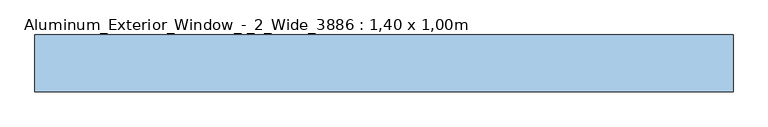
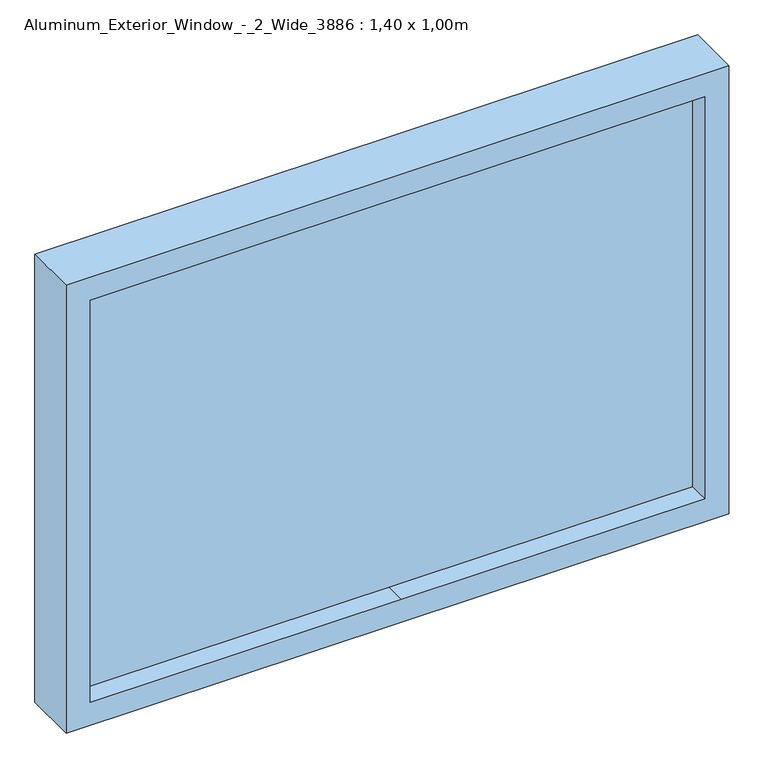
"""IFC4 building model written with IfcOpenShell, lengths in millimetres: window geometry, Aluminum_Exterior_Window_-_2_Wide_3886 : 1,40 x 1,00m."""

import ifcopenshell
import ifcopenshell.guid

model = None  # the IFC model being written
_history = None  # IfcOwnerHistory: only IFC2X3 demands one
_inside = {}  # id of a spatial element -> (the spatial element, [elements in it])
_under = {}  # id of a project, library or spatial element -> (it, [spatial elements below it])
_declared = {}  # id of a project -> (the project, [libraries it declares])
_typed = {}  # id of a type object -> (the type object, [elements of that type])
_made_of = {}  # id of a material, layer set ... -> (it, [elements and type objects made of it])


def new_model(schema):
    """Start an empty IFC model of exactly this schema.

    Asked for "IFC4X3", IfcOpenShell would pick the latest addendum, in which some entities
    have other attributes; the version numbers below select the first issue.
    IFC2X3 requires an IfcOwnerHistory on every rooted entity: one is made here for all.
    """
    global model, _history
    if schema == "IFC4X3":
        model = ifcopenshell.file(schema_version=(4, 3, 0, 0))
    else:
        model = ifcopenshell.file(schema=schema)
    _inside.clear()
    _under.clear()
    _declared.clear()
    _typed.clear()
    _made_of.clear()
    _history = None
    if model.schema == "IFC2X3":
        org = make("IfcOrganization", Name="unknown")
        user = make(
            "IfcPersonAndOrganization",
            ThePerson=make("IfcPerson", FamilyName="unknown"),
            TheOrganization=org,
        )
        app = make(
            "IfcApplication",
            ApplicationDeveloper=org,
            Version="unknown",
            ApplicationFullName="unknown",
            ApplicationIdentifier="unknown",
        )
        _history = make(
            "IfcOwnerHistory",
            OwningUser=user,
            OwningApplication=app,
            ChangeAction="ADDED",
            CreationDate=0,
        )
    return model


def make(cls, **values):
    """One entity of the class cls with the attributes given. An attribute that is None is left unset."""
    return model.create_entity(
        cls, **{name: value for name, value in values.items() if value is not None}
    )


def rooted(cls, **values):
    """An entity with a GlobalId (a new one), such as an element, a storey or a relation."""
    return make(cls, GlobalId=ifcopenshell.guid.new(), OwnerHistory=_history, **values)


def si_unit(unit_type, name, prefix=None):
    """IfcSIUnit, for example si_unit("LENGTHUNIT", "METRE", prefix="MILLI")."""
    return make("IfcSIUnit", UnitType=unit_type, Prefix=prefix, Name=name)


def assignment(units):
    """IfcUnitAssignment: the units of a project."""
    return None if units is None else make("IfcUnitAssignment", Units=units)


def point(xyz):
    """IfcCartesianPoint."""
    return None if xyz is None else make("IfcCartesianPoint", Coordinates=xyz)


def direction(xyz):
    """IfcDirection."""
    return None if xyz is None else make("IfcDirection", DirectionRatios=xyz)


def frame(location, z_axis=None, x_axis=None):
    """IfcAxis2Placement3D, a coordinate frame: its origin and axes. An axis left out is left unset."""
    return make(
        "IfcAxis2Placement3D",
        Location=point(location),
        Axis=direction(z_axis),
        RefDirection=direction(x_axis),
    )


def origin():
    """The frame at (0, 0, 0) with its axes left unset."""
    return frame((0.0, 0.0, 0.0))


def place(relative_to, where):
    """IfcLocalPlacement: puts the frame where relative to a parent placement (None: the world)."""
    return make(
        "IfcLocalPlacement", PlacementRelTo=relative_to, RelativePlacement=where
    )


def context(
    kind, dimensions, precision=None, world=None, true_north=None, identifier=None
):
    """IfcGeometricRepresentationContext, for example the 3D "Model" context."""
    return make(
        "IfcGeometricRepresentationContext",
        ContextIdentifier=identifier,
        ContextType=kind,
        CoordinateSpaceDimension=dimensions,
        Precision=precision,
        WorldCoordinateSystem=world,
        TrueNorth=true_north,
    )


def project(units=None, contexts=None):
    """IfcProject with its units and contexts."""
    return rooted(
        "IfcProject",
        Name="project",
        RepresentationContexts=contexts,
        UnitsInContext=assignment(units),
    )


def spatial(cls, under=None, at=None, **own):
    """A site, building, storey or space (cls), placed at a placement, below another one or the project."""
    s = rooted(cls, ObjectPlacement=at, **own)
    if under is not None:
        _under.setdefault(under.id(), (under, []))[1].append(s)
    return s


def polyline(points):
    """IfcPolyline through the points."""
    return make("IfcPolyline", Points=[point(p) for p in points])


def outline(outer, holes=None, kind="AREA"):
    """IfcArbitraryClosedProfileDef: a profile drawn as a closed curve; with holes, ...WithVoids."""
    if holes is None:
        return make("IfcArbitraryClosedProfileDef", ProfileType=kind, OuterCurve=outer)
    return make(
        "IfcArbitraryProfileDefWithVoids",
        ProfileType=kind,
        OuterCurve=outer,
        InnerCurves=holes,
    )


def extrude(swept, where, along, depth):
    """IfcExtrudedAreaSolid: the profile swept, set in the frame where, extruded along a direction by depth."""
    return make(
        "IfcExtrudedAreaSolid",
        SweptArea=swept,
        Position=where,
        ExtrudedDirection=direction(along),
        Depth=depth,
    )


def shape(context_of_items, identifier, shape_type, items):
    """IfcShapeRepresentation: the items that make up one representation, for example the "Body"."""
    return make(
        "IfcShapeRepresentation",
        ContextOfItems=context_of_items,
        RepresentationIdentifier=identifier,
        RepresentationType=shape_type,
        Items=items,
    )


def source(mapping_origin, context_of_items, identifier, shape_type, items):
    """IfcRepresentationMap: a shape defined once, which mapped items show again and again."""
    return make(
        "IfcRepresentationMap",
        MappingOrigin=mapping_origin,
        MappedRepresentation=shape(context_of_items, identifier, shape_type, items),
    )


def transform(
    local_origin,
    x_axis=None,
    y_axis=None,
    z_axis=None,
    scale=None,
    scale2=None,
    scale3=None,
    uniform=True,
):
    """IfcCartesianTransformationOperator3D, or its non-uniform kind. x_axis, y_axis, z_axis: its Axis1, 2, 3."""
    if uniform:
        return make(
            "IfcCartesianTransformationOperator3D",
            Axis1=direction(x_axis),
            Axis2=direction(y_axis),
            LocalOrigin=point(local_origin),
            Scale=scale,
            Axis3=direction(z_axis),
        )
    return make(
        "IfcCartesianTransformationOperator3DnonUniform",
        Axis1=direction(x_axis),
        Axis2=direction(y_axis),
        LocalOrigin=point(local_origin),
        Scale=scale,
        Axis3=direction(z_axis),
        Scale2=scale2,
        Scale3=scale3,
    )


def mapped(mapping_source, mapping_target):
    """IfcMappedItem: shows the shape of a source again, moved by a transform."""
    return make(
        "IfcMappedItem", MappingSource=mapping_source, MappingTarget=mapping_target
    )


def made_of(thing, what):
    """Note that an element or type object is made of a material, layer set ...; save() writes the relation."""
    if what is not None:
        _made_of.setdefault(what.id(), (what, []))[1].append(thing)
    return thing


def element(
    cls,
    number,
    at=None,
    inside=None,
    cuts=None,
    type_object=None,
    material=None,
    context=None,
    identifier="Body",
    shape_type=None,
    held_by="IfcProductDefinitionShape",
    body=None,
    shapes=None,
    **own,
):
    """One element of the class cls, such as IfcWall. Its Tag is "e" and its number.

    at: its placement. inside: the storey or other place that contains it. cuts: it is an
    opening in that element (IfcRelVoidsElement). A single representation is given by context,
    identifier, shape_type and body (its items); several are given by shapes. held_by: the class
    of the entity that holds the representations. save() writes the other relations.
    """
    e = rooted(cls, Tag="e%d" % number, ObjectPlacement=at, **own)
    if body is not None:
        shapes = [shape(context, identifier, shape_type, body)]
    if shapes is not None:
        e.Representation = make(held_by, Representations=shapes)
    if inside is not None:
        _inside.setdefault(inside.id(), (inside, []))[1].append(e)
    if cuts is not None:
        rooted(
            "IfcRelVoidsElement", RelatingBuildingElement=cuts, RelatedOpeningElement=e
        )
    if type_object is not None:
        _typed.setdefault(type_object.id(), (type_object, []))[1].append(e)
    return made_of(e, material)


def aggregate(whole, parts):
    """IfcRelAggregates: a whole, such as a stair, and the parts it consists of."""
    return rooted("IfcRelAggregates", RelatingObject=whole, RelatedObjects=parts)


def save(model, path):
    """Write the relations noted so far, then the file.

    IfcRelAggregates (storeys below a building ...), IfcRelContainedInSpatialStructure (elements
    in a storey), IfcRelDefinesByType, IfcRelAssociatesMaterial and IfcRelDeclares: one each for
    every whole, place, type object, material and project.
    """
    for whole, parts in _under.values():
        aggregate(whole, parts)
    for where, things in _inside.values():
        rooted(
            "IfcRelContainedInSpatialStructure",
            RelatedElements=things,
            RelatingStructure=where,
        )
    for kind, things in _typed.values():
        rooted("IfcRelDefinesByType", RelatedObjects=things, RelatingType=kind)
    for what, things in _made_of.values():
        rooted("IfcRelAssociatesMaterial", RelatedObjects=things, RelatingMaterial=what)
    for by, libraries in _declared.values():
        rooted("IfcRelDeclares", RelatingContext=by, RelatedDefinitions=libraries)
    model.write(path)


def aluminum_exterior_window_2_wide_3886_1_40_x_1_00m_dec34682(model_context):
    return source(origin(), model_context, "Body", "SweptSolid", [
        extrude(outline(polyline([(2060.0, -1371.6), (1060.0, -1371.6), (1060.0, 28.4), (2060.0, 28.4), (2060.0, -1371.6)]), holes=[polyline([(2009.2, -697.0), (2009.2, -22.4), (1110.8, -22.4), (1110.8, -663.8808837), (1110.8, -1320.8), (2009.2, -1320.8), (2009.2, -697.0)])]), frame((0.0, -38.1424754, 0.0), z_axis=(0.0, 1.0, 0.0), x_axis=(0.0, 0.0, 1.0)), (0.0, 0.0, 1.0), 114.3),
        extrude(outline(polyline([(2009.2, -697.0), (2009.2, -1320.8), (1110.8, -1320.8), (1110.8, -670.891469), (1110.8, -22.4), (2009.2, -22.4), (2009.2, -697.0)])), frame((0.0, 6.3075246, 0.0), z_axis=(0.0, 1.0, 0.0), x_axis=(0.0, 0.0, 1.0)), (0.0, 0.0, 1.0), 25.4),
    ])


if __name__ == "__main__":
    model = new_model("IFC4")
    model_context = context("Model", 3, world=origin())
    ifc_project = project(units=[si_unit("LENGTHUNIT", "METRE", prefix="MILLI")], contexts=[model_context])
    site = spatial("IfcSite", under=ifc_project)
    building = spatial("IfcBuilding", under=site)
    placement = place(None, origin())
    aluminum_exterior_window_2_wide_3886_1_40_x_1_00m_shape = aluminum_exterior_window_2_wide_3886_1_40_x_1_00m_dec34682(model_context)
    element("IfcWindow", 1, ObjectType="Aluminum_Exterior_Window_-_2_Wide_3886 : 1,40 x 1,00m", at=placement, inside=building, context=model_context, shape_type="MappedRepresentation", body=[
        mapped(aluminum_exterior_window_2_wide_3886_1_40_x_1_00m_shape, transform((0.0, 0.0, 0.0), x_axis=(1.0, 0.0, 0.0), y_axis=(0.0, 1.0, 0.0), z_axis=(0.0, 0.0, 1.0))),
    ])
    save(model, "model.ifc")
